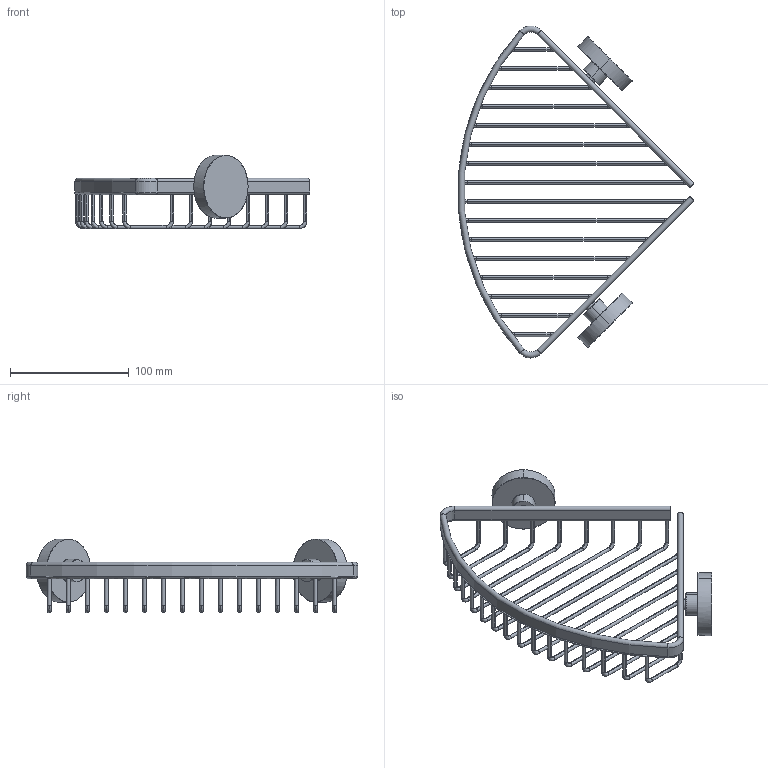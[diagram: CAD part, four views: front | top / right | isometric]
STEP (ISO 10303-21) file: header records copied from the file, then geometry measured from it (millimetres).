
FILE_DESCRIPTION(('THIS FILE CONTAINS SOME STEP INSTANCES'),'1');
FILE_NAME('HAR 021-light.stp','2015-10-27T15:34:21',('UNDEFINED'),('UNDEFINED'),'T-FLEX CAD STEP converter','T-FLEX CAD','');
FILE_SCHEMA(('CONFIG_CONTROL_DESIGN'));
Length unit declared in the file: metre
Products named in the file (1): har_021
Bounding box: 198.32 x 279.18 x 62 mm (x, y, z)
Volume: 122362.1 mm3; surface area: 62696.8 mm2
Topology: 1 solids, 1 shells, 240 faces, 593 edges, 359 vertices
Faces by surface type: cylinder 118, torus 70, cone 28, plane 18, bspline 6
Entity records: 13066 total; most frequent: CARTESIAN_POINT 8429, ORIENTED_EDGE 1186, DIRECTION 718, EDGE_CURVE 593, VERTEX_POINT 359, AXIS2_PLACEMENT_3D 279, EDGE_LOOP 276, ADVANCED_FACE 240
